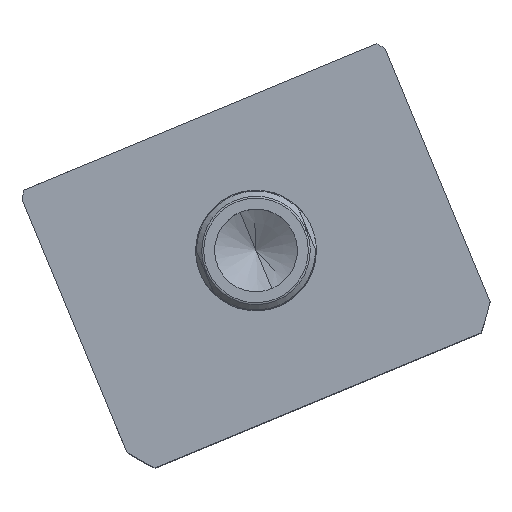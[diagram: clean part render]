
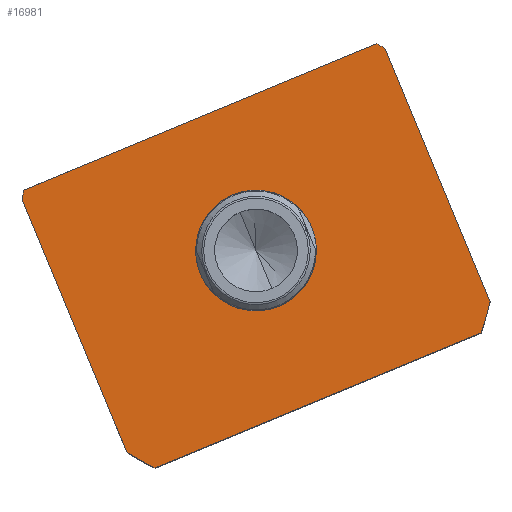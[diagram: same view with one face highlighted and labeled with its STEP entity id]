
A CAD part, top view. The second image highlights one B-rep face of the part: STEP entity #16981.
In plain terms, the highlighted planar face has unit normal (0, 0, 1) as drawn and (0, 0, -1) by its records, which use the part's own axes.
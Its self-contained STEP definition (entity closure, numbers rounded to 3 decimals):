
#65 = CARTESIAN_POINT ( 'NONE',  ( 0., -59.497, 0. ) ) ;
#220 = CARTESIAN_POINT ( 'NONE',  ( 0., -59.497, 0. ) ) ;
#608 = VERTEX_POINT ( 'NONE', #1977 ) ;
#662 = AXIS2_PLACEMENT_3D ( 'NONE', #65, #10007, #1502 ) ;
#874 = EDGE_LOOP ( 'NONE', ( #1895, #1416 ) ) ;
#910 = DIRECTION ( 'NONE',  ( 1., 0., 0. ) ) ;
#912 = AXIS2_PLACEMENT_3D ( 'NONE', #14093, #5610, #15503 ) ;
#957 = LINE ( 'NONE', #2344, #11839 ) ;
#1203 = AXIS2_PLACEMENT_3D ( 'NONE', #13220, #4732, #14633 ) ;
#1416 = ORIENTED_EDGE ( 'NONE', *, *, #13013, .T. ) ;
#1430 = DIRECTION ( 'NONE',  ( 1., 0., 0. ) ) ;
#1431 = ORIENTED_EDGE ( 'NONE', *, *, #5340, .F. ) ;
#1502 = DIRECTION ( 'NONE',  ( 1., 0., 0. ) ) ;
#1589 = ORIENTED_EDGE ( 'NONE', *, *, #11347, .F. ) ;
#1659 = DIRECTION ( 'NONE',  ( 1., 0., 0. ) ) ;
#1895 = ORIENTED_EDGE ( 'NONE', *, *, #2420, .T. ) ;
#1896 = CARTESIAN_POINT ( 'NONE',  ( -57., -17.497, 0. ) ) ;
#1977 = CARTESIAN_POINT ( 'NONE',  ( -51.198, -106.497, 0. ) ) ;
#2344 = CARTESIAN_POINT ( 'NONE',  ( -57., -106.497, 0. ) ) ;
#2420 = EDGE_CURVE ( 'NONE', #13105, #8081, #12081, .T. ) ;
#2598 = DIRECTION ( 'NONE',  ( 0., 0., 1. ) ) ;
#2681 = CARTESIAN_POINT ( 'NONE',  ( -57., -99.262, 0. ) ) ;
#2747 = CIRCLE ( 'NONE', #662, 69.5 ) ;
#3445 = FACE_OUTER_BOUND ( 'NONE', #12193, .T. ) ;
#3630 = EDGE_CURVE ( 'NONE', #8980, #18216, #4792, .T. ) ;
#3913 = AXIS2_PLACEMENT_3D ( 'NONE', #220, #10168, #1659 ) ;
#4565 = LINE ( 'NONE', #14530, #15394 ) ;
#4628 = DIRECTION ( 'NONE',  ( 0., 1., 0. ) ) ;
#4732 = DIRECTION ( 'NONE',  ( 0., 0., 1. ) ) ;
#4792 = CIRCLE ( 'NONE', #14608, 69.5 ) ;
#5107 = CARTESIAN_POINT ( 'NONE',  ( -55.374, -17.497, 0. ) ) ;
#5281 = EDGE_CURVE ( 'NONE', #18216, #13577, #7237, .T. ) ;
#5302 = CARTESIAN_POINT ( 'NONE',  ( 57., -19.732, 0. ) ) ;
#5340 = EDGE_CURVE ( 'NONE', #8451, #8980, #7665, .T. ) ;
#5610 = DIRECTION ( 'NONE',  ( 0., 0., 1. ) ) ;
#5956 = CARTESIAN_POINT ( 'NONE',  ( 55.374, -17.497, 0. ) ) ;
#6007 = EDGE_CURVE ( 'NONE', #13577, #608, #18212, .T. ) ;
#6008 = VERTEX_POINT ( 'NONE', #11791 ) ;
#6107 = ORIENTED_EDGE ( 'NONE', *, *, #3630, .F. ) ;
#6409 = AXIS2_PLACEMENT_3D ( 'NONE', #14059, #9939, #1430 ) ;
#6650 = ORIENTED_EDGE ( 'NONE', *, *, #12017, .F. ) ;
#7237 = LINE ( 'NONE', #1896, #14720 ) ;
#7665 = LINE ( 'NONE', #11231, #14302 ) ;
#8081 = VERTEX_POINT ( 'NONE', #16441 ) ;
#8451 = VERTEX_POINT ( 'NONE', #5956 ) ;
#8980 = VERTEX_POINT ( 'NONE', #5107 ) ;
#9269 = AXIS2_PLACEMENT_3D ( 'NONE', #15814, #15879, #15934 ) ;
#9451 = EDGE_CURVE ( 'NONE', #6008, #12899, #4565, .T. ) ;
#9939 = DIRECTION ( 'NONE',  ( 0., 0., 1. ) ) ;
#9940 = CIRCLE ( 'NONE', #912, 17.5 ) ;
#10007 = DIRECTION ( 'NONE',  ( 0., 0., 1. ) ) ;
#10168 = DIRECTION ( 'NONE',  ( 0., 0., 1. ) ) ;
#10392 = DIRECTION ( 'NONE',  ( -1., 0., 0. ) ) ;
#11087 = CARTESIAN_POINT ( 'NONE',  ( 0., -59.497, 0. ) ) ;
#11231 = CARTESIAN_POINT ( 'NONE',  ( -57., -17.497, 0. ) ) ;
#11347 = EDGE_CURVE ( 'NONE', #12899, #8451, #2747, .T. ) ;
#11381 = CARTESIAN_POINT ( 'NONE',  ( 17.5, -59.497, 0. ) ) ;
#11791 = CARTESIAN_POINT ( 'NONE',  ( 57., -99.262, 0. ) ) ;
#11802 = DIRECTION ( 'NONE',  ( 0., -1., 0. ) ) ;
#11808 = VERTEX_POINT ( 'NONE', #11897 ) ;
#11839 = VECTOR ( 'NONE', #910, 1000. ) ;
#11897 = CARTESIAN_POINT ( 'NONE',  ( 51.198, -106.497, 0. ) ) ;
#12017 = EDGE_CURVE ( 'NONE', #608, #11808, #957, .T. ) ;
#12018 = CARTESIAN_POINT ( 'NONE',  ( -57., -19.732, 0. ) ) ;
#12081 = CIRCLE ( 'NONE', #9269, 17.5 ) ;
#12193 = EDGE_LOOP ( 'NONE', ( #1589, #13747, #13997, #6650, #15583, #13583, #6107, #1431 ) ) ;
#12503 = DIRECTION ( 'NONE',  ( 1., 0., 0. ) ) ;
#12899 = VERTEX_POINT ( 'NONE', #5302 ) ;
#13013 = EDGE_CURVE ( 'NONE', #8081, #13105, #9940, .T. ) ;
#13105 = VERTEX_POINT ( 'NONE', #11381 ) ;
#13220 = CARTESIAN_POINT ( 'NONE',  ( 0., -59.497, 0. ) ) ;
#13577 = VERTEX_POINT ( 'NONE', #2681 ) ;
#13583 = ORIENTED_EDGE ( 'NONE', *, *, #5281, .F. ) ;
#13747 = ORIENTED_EDGE ( 'NONE', *, *, #9451, .F. ) ;
#13997 = ORIENTED_EDGE ( 'NONE', *, *, #16402, .F. ) ;
#14059 = CARTESIAN_POINT ( 'NONE',  ( 0., 0., 0. ) ) ;
#14093 = CARTESIAN_POINT ( 'NONE',  ( 0., -59.497, 0. ) ) ;
#14302 = VECTOR ( 'NONE', #10392, 1000. ) ;
#14530 = CARTESIAN_POINT ( 'NONE',  ( 57., -17.497, 0. ) ) ;
#14608 = AXIS2_PLACEMENT_3D ( 'NONE', #11087, #2598, #12503 ) ;
#14633 = DIRECTION ( 'NONE',  ( 1., 0., 0. ) ) ;
#14720 = VECTOR ( 'NONE', #11802, 1000. ) ;
#15394 = VECTOR ( 'NONE', #4628, 1000. ) ;
#15503 = DIRECTION ( 'NONE',  ( 1., 0., 0. ) ) ;
#15583 = ORIENTED_EDGE ( 'NONE', *, *, #6007, .F. ) ;
#15814 = CARTESIAN_POINT ( 'NONE',  ( 0., -59.497, 0. ) ) ;
#15879 = DIRECTION ( 'NONE',  ( 0., 0., 1. ) ) ;
#15934 = DIRECTION ( 'NONE',  ( 1., 0., 0. ) ) ;
#16073 = CIRCLE ( 'NONE', #3913, 69.5 ) ;
#16402 = EDGE_CURVE ( 'NONE', #11808, #6008, #16073, .T. ) ;
#16441 = CARTESIAN_POINT ( 'NONE',  ( -17.5, -59.497, 0. ) ) ;
#16981 = ADVANCED_FACE ( 'NONE', ( #17577, #3445 ), #18341, .F. ) ;
#17577 = FACE_BOUND ( 'NONE', #874, .T. ) ;
#18212 = CIRCLE ( 'NONE', #1203, 69.5 ) ;
#18216 = VERTEX_POINT ( 'NONE', #12018 ) ;
#18341 = PLANE ( 'NONE',  #6409 ) ;
